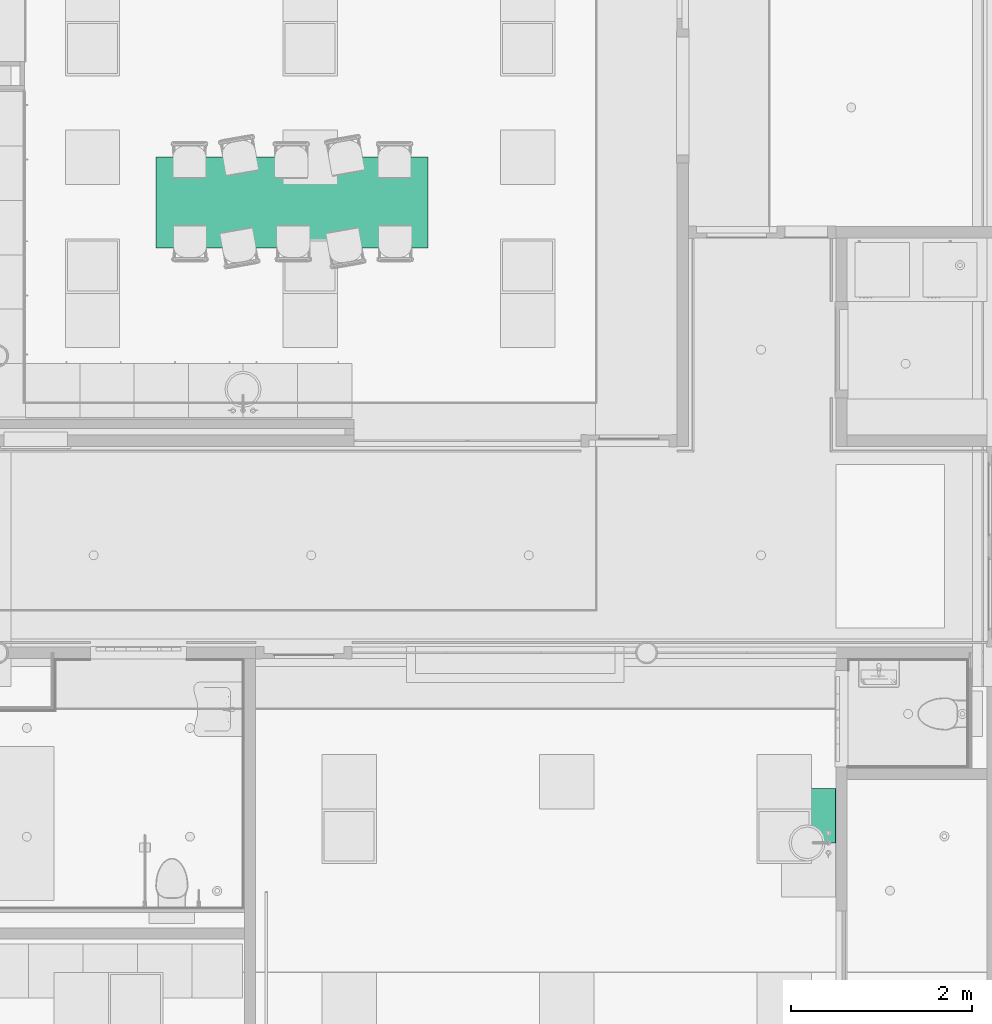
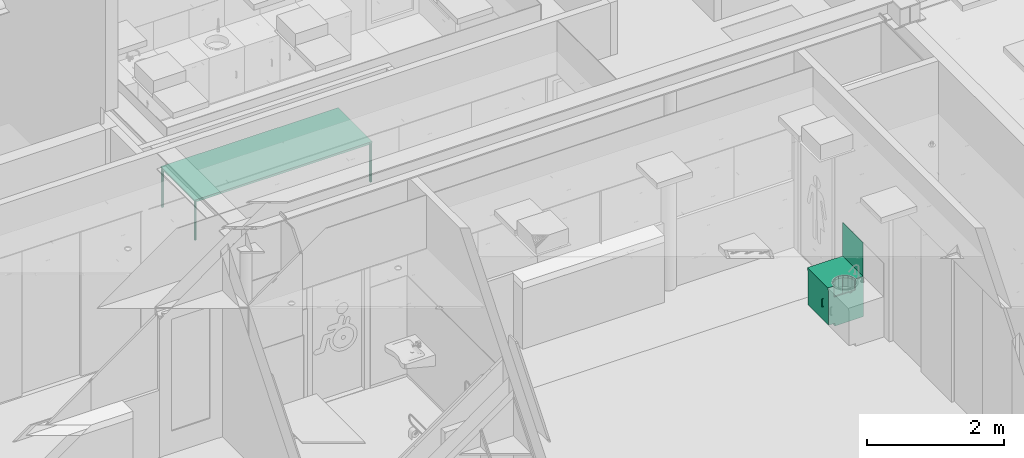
# One storey, part 302 of 347: 2 distribution elements.
"""IFC2X3 building model written with IfcOpenShell, lengths in millimetres."""

from ifc_helpers import new_model, entity, si_unit, converted_unit, derived_unit, money_unit, direction, frame, origin_with_axes, place, context, subcontext, project, spatial, faceted_brep, type_object, element, save


model = new_model("IFC2X3")

# Units and contexts
model_context = context("Model", 3, precision=0.01, world=origin_with_axes(), true_north=direction((0.0, 1.0)))
plan_context = context("Plan", 3, precision=0.01, world=origin_with_axes(), true_north=direction((0.0, 1.0)))
body_context = subcontext(model_context, "Body", "Model", "MODEL_VIEW")
ifc_project = project(units=[si_unit("LENGTHUNIT", "METRE", prefix="MILLI"), si_unit("AREAUNIT", "SQUARE_METRE"), si_unit("VOLUMEUNIT", "CUBIC_METRE"), converted_unit("PLANEANGLEUNIT", "DEGREE", entity("IfcPlaneAngleMeasure", 0.0174532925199), si_unit("PLANEANGLEUNIT", "RADIAN"), dimensions=[0, 0, 0, 0, 0, 0, 0]), money_unit("EUR"), converted_unit("TIMEUNIT", "Year", entity("IfcTimeMeasure", 31556926.0), si_unit("TIMEUNIT", "SECOND"), dimensions=[0, 0, 1, 0, 0, 0, 0]), si_unit("MASSUNIT", "GRAM", prefix="KILO"), si_unit("THERMODYNAMICTEMPERATUREUNIT", "DEGREE_CELSIUS"), si_unit("LUMINOUSINTENSITYUNIT", "LUMEN"), si_unit("ENERGYUNIT", "JOULE", prefix="MEGA"), derived_unit("THERMALCONDUCTANCEUNIT", [(si_unit("POWERUNIT", "WATT"), 1), (si_unit("LENGTHUNIT", "METRE"), -1), (si_unit("THERMODYNAMICTEMPERATUREUNIT", "KELVIN"), -1)]), derived_unit("SPECIFICHEATCAPACITYUNIT", [(si_unit("ENERGYUNIT", "JOULE"), 1), (si_unit("MASSUNIT", "GRAM", prefix="KILO"), -1), (si_unit("THERMODYNAMICTEMPERATUREUNIT", "KELVIN"), -1)]), derived_unit("MASSDENSITYUNIT", [(si_unit("MASSUNIT", "GRAM", prefix="KILO"), 1), (si_unit("VOLUMEUNIT", "CUBIC_METRE"), -1)])], contexts=[model_context, plan_context])

# Site, building, storey
site_placement = place(None, origin_with_axes())
site = spatial("IfcSite", under=ifc_project, at=site_placement, Name="Site", CompositionType="ELEMENT")
building_placement = place(site_placement, origin_with_axes())
building = spatial("IfcBuilding", under=site, at=building_placement, Name="Naam gebouw", CompositionType="ELEMENT")
storey_placement = place(building_placement, origin_with_axes())
storey = spatial("IfcBuildingStorey", under=building, at=storey_placement, Name="begane grond", CompositionType="ELEMENT", Elevation=0.0)

# Distribution elements
distribution_element_type_1 = type_object("IfcDistributionElementType", Name="Tafel rechthoekig 01 25")
distribution_element_1_placement = place(storey_placement, frame((29324.9441319, 17592.1373626, 0.0), z_axis=(0.0, 0.0, 1.0), x_axis=(-1.0, 0.0, 0.0)))
element("IfcDistributionElement", 1, at=distribution_element_1_placement, inside=storey, type_object=distribution_element_type_1, Name="65 Beveiliging_73 pantryblok", context=body_context, shape_type="Brep", body=[
    faceted_brep([(37.3205080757, 10.0, 0.0), (30.0, 2.67949192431, 0.0), (20.0, 0.0, 0.0), (10.0, 2.67949192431, 0.0), (2.67949192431, 10.0, 0.0), (0.0, 20.0, 0.0), (2.67949192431, 30.0, 0.0), (10.0, 37.3205080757, 0.0), (20.0, 40.0, 0.0), (30.0, 37.3205080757, 0.0), (37.3205080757, 30.0, 0.0), (40.0, 20.0, 0.0), (37.3205080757, 10.0, 700.0), (30.0, 2.67949192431, 700.0), (20.0, 0.0, 700.0), (10.0, 2.67949192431, 700.0), (2.67949192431, 10.0, 700.0), (0.0, 20.0, 700.0), (2.67949192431, 30.0, 700.0), (10.0, 37.3205080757, 700.0), (20.0, 40.0, 700.0), (30.0, 37.3205080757, 700.0), (37.3205080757, 30.0, 700.0), (40.0, 20.0, 700.0)], [[[0, 1, 2, 3, 4, 5, 6, 7, 8, 9, 10, 11]], [[1, 0, 12, 13]], [[2, 1, 13, 14]], [[3, 2, 14, 15]], [[4, 3, 15, 16]], [[5, 4, 16, 17]], [[6, 5, 17, 18]], [[7, 6, 18, 19]], [[8, 7, 19, 20]], [[9, 8, 20, 21]], [[10, 9, 21, 22]], [[11, 10, 22, 23]], [[0, 11, 23, 12]], [[12, 23, 22, 21, 20, 19, 18, 17, 16, 15, 14, 13]]]),
    faceted_brep([(2997.32050808, 10.0, 0.0), (2990.0, 2.67949192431, 0.0), (2980.0, 0.0, 0.0), (2970.0, 2.67949192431, 0.0), (2962.67949192, 10.0, 0.0), (2960.0, 20.0, 0.0), (2962.67949192, 30.0, 0.0), (2970.0, 37.3205080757, 0.0), (2980.0, 40.0, 0.0), (2990.0, 37.3205080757, 0.0), (2997.32050808, 30.0, 0.0), (3000.0, 20.0, 0.0), (2997.32050808, 10.0, 700.0), (2990.0, 2.67949192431, 700.0), (2980.0, 0.0, 700.0), (2970.0, 2.67949192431, 700.0), (2962.67949192, 10.0, 700.0), (2960.0, 20.0, 700.0), (2962.67949192, 30.0, 700.0), (2970.0, 37.3205080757, 700.0), (2980.0, 40.0, 700.0), (2990.0, 37.3205080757, 700.0), (2997.32050808, 30.0, 700.0), (3000.0, 20.0, 700.0)], [[[0, 1, 2, 3, 4, 5, 6, 7, 8, 9, 10, 11]], [[1, 0, 12, 13]], [[2, 1, 13, 14]], [[3, 2, 14, 15]], [[4, 3, 15, 16]], [[5, 4, 16, 17]], [[6, 5, 17, 18]], [[7, 6, 18, 19]], [[8, 7, 19, 20]], [[9, 8, 20, 21]], [[10, 9, 21, 22]], [[11, 10, 22, 23]], [[0, 11, 23, 12]], [[12, 23, 22, 21, 20, 19, 18, 17, 16, 15, 14, 13]]]),
    faceted_brep([(37.3205080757, 970.0, 0.0), (30.0, 962.679491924, 0.0), (20.0, 960.0, 0.0), (10.0, 962.679491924, 0.0), (2.67949192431, 970.0, 0.0), (0.0, 980.0, 0.0), (2.67949192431, 990.0, 0.0), (10.0, 997.320508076, 0.0), (20.0, 1000.0, 0.0), (30.0, 997.320508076, 0.0), (37.3205080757, 990.0, 0.0), (40.0, 980.0, 0.0), (37.3205080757, 970.0, 700.0), (30.0, 962.679491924, 700.0), (20.0, 960.0, 700.0), (10.0, 962.679491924, 700.0), (2.67949192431, 970.0, 700.0), (0.0, 980.0, 700.0), (2.67949192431, 990.0, 700.0), (10.0, 997.320508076, 700.0), (20.0, 1000.0, 700.0), (30.0, 997.320508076, 700.0), (37.3205080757, 990.0, 700.0), (40.0, 980.0, 700.0)], [[[0, 1, 2, 3, 4, 5, 6, 7, 8, 9, 10, 11]], [[1, 0, 12, 13]], [[2, 1, 13, 14]], [[3, 2, 14, 15]], [[4, 3, 15, 16]], [[5, 4, 16, 17]], [[6, 5, 17, 18]], [[7, 6, 18, 19]], [[8, 7, 19, 20]], [[9, 8, 20, 21]], [[10, 9, 21, 22]], [[11, 10, 22, 23]], [[0, 11, 23, 12]], [[12, 23, 22, 21, 20, 19, 18, 17, 16, 15, 14, 13]]]),
    faceted_brep([(2997.32050808, 970.0, 0.0), (2990.0, 962.679491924, 0.0), (2980.0, 960.0, 0.0), (2970.0, 962.679491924, 0.0), (2962.67949192, 970.0, 0.0), (2960.0, 980.0, 0.0), (2962.67949192, 990.0, 0.0), (2970.0, 997.320508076, 0.0), (2980.0, 1000.0, 0.0), (2990.0, 997.320508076, 0.0), (2997.32050808, 990.0, 0.0), (3000.0, 980.0, 0.0), (2997.32050808, 970.0, 700.0), (2990.0, 962.679491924, 700.0), (2980.0, 960.0, 700.0), (2970.0, 962.679491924, 700.0), (2962.67949192, 970.0, 700.0), (2960.0, 980.0, 700.0), (2962.67949192, 990.0, 700.0), (2970.0, 997.320508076, 700.0), (2980.0, 1000.0, 700.0), (2990.0, 997.320508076, 700.0), (2997.32050808, 990.0, 700.0), (3000.0, 980.0, 700.0)], [[[0, 1, 2, 3, 4, 5, 6, 7, 8, 9, 10, 11]], [[1, 0, 12, 13]], [[2, 1, 13, 14]], [[3, 2, 14, 15]], [[4, 3, 15, 16]], [[5, 4, 16, 17]], [[6, 5, 17, 18]], [[7, 6, 18, 19]], [[8, 7, 19, 20]], [[9, 8, 20, 21]], [[10, 9, 21, 22]], [[11, 10, 22, 23]], [[0, 11, 23, 12]], [[12, 23, 22, 21, 20, 19, 18, 17, 16, 15, 14, 13]]]),
    faceted_brep([(3000.0, 0.0, 700.0), (0.0, 0.0, 700.0), (0.0, 1000.0, 700.0), (3000.0, 1000.0, 700.0), (3000.0, 0.0, 720.0), (0.0, 0.0, 720.0), (0.0, 1000.0, 720.0), (3000.0, 1000.0, 720.0)], [[[0, 1, 2, 3]], [[1, 0, 4, 5]], [[2, 1, 5, 6]], [[3, 2, 6, 7]], [[0, 3, 7, 4]], [[5, 4, 7, 6]]]),
    faceted_brep([(2960.0, 10.0, 675.0), (40.0, 10.0, 675.0), (40.0, 30.0, 675.0), (2960.0, 30.0, 675.0), (2960.0, 10.0, 700.0), (40.0, 10.0, 700.0), (40.0, 30.0, 700.0), (2960.0, 30.0, 700.0)], [[[0, 1, 2, 3]], [[1, 0, 4, 5]], [[2, 1, 5, 6]], [[3, 2, 6, 7]], [[0, 3, 7, 4]], [[5, 4, 7, 6]]]),
    faceted_brep([(30.0, 40.0, 675.0), (10.0, 40.0, 675.0), (10.0, 960.0, 675.0), (30.0, 960.0, 675.0), (30.0, 40.0, 700.0), (10.0, 40.0, 700.0), (10.0, 960.0, 700.0), (30.0, 960.0, 700.0)], [[[0, 1, 2, 3]], [[1, 0, 4, 5]], [[2, 1, 5, 6]], [[3, 2, 6, 7]], [[0, 3, 7, 4]], [[5, 4, 7, 6]]]),
    faceted_brep([(40.0, 990.0, 675.0), (2960.0, 990.0, 675.0), (2960.0, 970.0, 675.0), (40.0, 970.0, 675.0), (40.0, 990.0, 700.0), (2960.0, 990.0, 700.0), (2960.0, 970.0, 700.0), (40.0, 970.0, 700.0)], [[[0, 1, 2, 3]], [[1, 0, 4, 5]], [[2, 1, 5, 6]], [[3, 2, 6, 7]], [[0, 3, 7, 4]], [[5, 4, 7, 6]]]),
    faceted_brep([(2970.0, 960.0, 675.0), (2990.0, 960.0, 675.0), (2990.0, 40.0, 675.0), (2970.0, 40.0, 675.0), (2970.0, 960.0, 700.0), (2990.0, 960.0, 700.0), (2990.0, 40.0, 700.0), (2970.0, 40.0, 700.0)], [[[0, 1, 2, 3]], [[1, 0, 4, 5]], [[2, 1, 5, 6]], [[3, 2, 6, 7]], [[0, 3, 7, 4]], [[5, 4, 7, 6]]]),
])
distribution_element_type_2 = type_object("IfcDistributionElementType", Name="Onderkast recht 25")
distribution_element_2_placement = place(storey_placement, frame((33825.0, 10027.5, 0.0), z_axis=(0.0, 0.0, 1.0), x_axis=(0.0, -1.0, 0.0)))
element("IfcDistributionElement", 2, at=distribution_element_2_placement, inside=storey, type_object=distribution_element_type_2, Name="65 Beveiliging_82 pantryblok", context=body_context, shape_type="Brep", body=[
    faceted_brep([(-127.279220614, -189.454472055, 720.0), (-68.8830178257, -150.435376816, 720.0), (0.0, -136.733692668, 720.0), (0.0, 0.0, 720.0), (-600.0, 0.0, 720.0), (-600.0, -600.0, 720.0), (0.0, -600.0, 720.0), (0.0, -496.733692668, 720.0), (-68.8830178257, -483.03200852, 720.0), (-127.279220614, -444.012913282, 720.0), (-166.298315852, -385.616710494, 720.0), (-180.0, -316.733692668, 720.0), (-166.298315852, -247.850674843, 720.0), (-127.279220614, -189.454472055, 680.0), (-68.8830178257, -150.435376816, 680.0), (0.0, -136.733692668, 680.0), (0.0, 0.0, 680.0), (-600.0, 0.0, 680.0), (-600.0, -600.0, 680.0), (0.0, -600.0, 680.0), (0.0, -496.733692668, 680.0), (-68.8830178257, -483.03200852, 680.0), (-127.279220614, -444.012913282, 680.0), (-166.298315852, -385.616710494, 680.0), (-180.0, -316.733692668, 680.0), (-166.298315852, -247.850674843, 680.0)], [[[0, 1, 2, 3, 4, 5, 6, 7, 8, 9, 10, 11, 12]], [[1, 0, 13, 14]], [[2, 1, 14, 15]], [[2, 15, 16, 3]], [[16, 17, 4, 3]], [[17, 18, 5, 4]], [[18, 19, 6, 5]], [[20, 7, 6, 19]], [[8, 7, 20, 21]], [[9, 8, 21, 22]], [[10, 9, 22, 23]], [[11, 10, 23, 24]], [[12, 11, 24, 25]], [[0, 12, 25, 13]], [[21, 20, 19, 18, 17, 16, 15, 14, 13, 25, 24, 23, 22]]]),
    faceted_brep([(-18.0, -512.0, 662.0), (-18.0, -572.0, 662.0), (-582.0, -572.0, 662.0), (-582.0, -512.0, 662.0), (-18.0, -572.0, 680.0), (-18.0, -512.0, 680.0), (-582.0, -572.0, 680.0), (-582.0, -512.0, 680.0)], [[[0, 1, 2, 3]], [[4, 1, 0, 5]], [[1, 4, 6, 2]], [[3, 2, 6, 7]], [[5, 0, 3, 7]], [[4, 5, 7, 6]]]),
    faceted_brep([(-18.0, -9.0, 68.0), (-582.0, -9.0, 68.0), (-582.0, -9.0, 662.0), (-18.0, -9.0, 662.0), (-582.0, -18.0, 68.0), (-18.0, -18.0, 68.0), (-582.0, -18.0, 662.0), (-18.0, -18.0, 662.0)], [[[0, 1, 2, 3]], [[4, 1, 0, 5]], [[1, 4, 6, 2]], [[3, 2, 6, 7]], [[5, 0, 3, 7]], [[4, 5, 7, 6]]]),
    faceted_brep([(-582.0, -60.0, 662.0), (-582.0, 0.0, 662.0), (-18.0, 0.0, 662.0), (-18.0, -60.0, 662.0), (-582.0, 0.0, 680.0), (-582.0, -60.0, 680.0), (-18.0, 0.0, 680.0), (-18.0, -60.0, 680.0)], [[[0, 1, 2, 3]], [[4, 1, 0, 5]], [[1, 4, 6, 2]], [[3, 2, 6, 7]], [[5, 0, 3, 7]], [[4, 5, 7, 6]]]),
    faceted_brep([(-18.0, -140.314115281, 520.0), (-18.0, -140.314115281, 680.0), (-18.0, 0.0, 680.0), (-18.0, 0.0, 50.0), (-18.0, -572.0, 50.0), (-18.0, -572.0, 680.0), (-18.0, -493.153270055, 680.0), (-18.0, -493.153270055, 520.0), (-18.0, -227.476787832, 520.0), (-18.0, -227.476787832, 500.0), (-18.0, -205.990597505, 500.0), (-18.0, -205.990597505, 520.0), (0.0, -136.733692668, 680.0), (0.0, -136.733692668, 520.0), (0.0, 0.0, 680.0), (0.0, 0.0, 50.0), (0.0, -572.0, 50.0), (0.0, -572.0, 680.0), (0.0, -496.733692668, 680.0), (0.0, -496.733692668, 520.0), (-14.8492424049, -231.582935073, 520.0), (0.0, -237.733692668, 520.0), (-5.43519994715, -237.01813502, 520.0), (-10.5, -234.920226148, 520.0), (-14.8492424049, -231.582935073, 500.0), (0.0, -237.733692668, 500.0), (0.0, -195.733692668, 500.0), (-5.43519994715, -196.449250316, 500.0), (-10.5, -198.547159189, 500.0), (-14.8492424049, -201.884450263, 500.0), (-10.5, -234.920226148, 500.0), (-5.43519994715, -237.01813502, 500.0), (-14.8492424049, -201.884450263, 520.0), (0.0, -195.733692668, 520.0), (-10.5, -198.547159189, 520.0), (-5.43519994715, -196.449250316, 520.0)], [[[0, 1, 2, 3, 4, 5, 6, 7, 8, 9, 10, 11]], [[12, 1, 0, 13]], [[1, 12, 14, 2]], [[15, 3, 2, 14]], [[3, 15, 16, 4]], [[4, 16, 17, 5]], [[18, 6, 5, 17]], [[7, 6, 18, 19]], [[20, 8, 7, 19, 21, 22, 23]], [[8, 20, 24, 9]], [[25, 26, 27, 28, 29, 10, 9, 24, 30, 31]], [[32, 11, 10, 29]], [[33, 13, 0, 11, 32, 34, 35]], [[13, 33, 26, 25, 21, 19, 18, 17, 16, 15, 14, 12]], [[22, 21, 25, 31]], [[23, 22, 31, 30]], [[20, 23, 30, 24]], [[33, 35, 27, 26]], [[35, 34, 28, 27]], [[34, 32, 29, 28]]]),
    faceted_brep([(-600.0, 0.0, 50.0), (-600.0, -572.0, 50.0), (-600.0, -572.0, 680.0), (-600.0, 0.0, 680.0), (-582.0, -572.0, 50.0), (-582.0, 0.0, 50.0), (-582.0, -572.0, 680.0), (-582.0, 0.0, 680.0)], [[[0, 1, 2, 3]], [[4, 1, 0, 5]], [[1, 4, 6, 2]], [[3, 2, 6, 7]], [[5, 0, 3, 7]], [[4, 5, 7, 6]]]),
    faceted_brep([(-600.0, 0.0, 720.0), (0.0, 0.0, 720.0), (0.0, -6.0, 720.0), (-600.0, -6.0, 720.0), (-600.0, 0.0, 1320.0), (0.0, 0.0, 1320.0), (0.0, -6.0, 1320.0), (-600.0, -6.0, 1320.0)], [[[0, 1, 2, 3]], [[4, 5, 1, 0]], [[1, 5, 6, 2]], [[3, 2, 6, 7]], [[0, 3, 7, 4]], [[7, 6, 5, 4]]]),
    faceted_brep([(-146.0, -590.0, 291.0), (-156.0, -590.0, 291.0), (-156.0, -590.0, 301.0), (-146.0, -590.0, 301.0), (-146.0, -600.0, 291.0), (-156.0, -600.0, 291.0), (-156.0, -603.472963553, 291.30384494), (-156.0, -606.840402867, 292.206147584), (-156.0, -610.0, 293.679491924), (-156.0, -612.855752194, 295.679111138), (-156.0, -615.320888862, 298.144247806), (-156.0, -617.320508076, 301.0), (-156.0, -618.793852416, 304.159597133), (-156.0, -619.69615506, 307.527036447), (-156.0, -620.0, 311.0), (-156.0, -620.0, 421.0), (-156.0, -619.69615506, 424.472963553), (-156.0, -618.793852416, 427.840402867), (-156.0, -617.320508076, 431.0), (-156.0, -615.320888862, 433.855752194), (-156.0, -612.855752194, 436.320888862), (-156.0, -610.0, 438.320508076), (-156.0, -606.840402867, 439.793852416), (-156.0, -603.472963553, 440.69615506), (-156.0, -600.0, 441.0), (-156.0, -590.0, 441.0), (-156.0, -590.0, 431.0), (-156.0, -600.0, 431.0), (-156.0, -601.736481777, 430.84807753), (-156.0, -603.420201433, 430.396926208), (-156.0, -605.0, 429.660254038), (-156.0, -606.427876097, 428.660444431), (-156.0, -607.660444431, 427.427876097), (-156.0, -608.660254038, 426.0), (-156.0, -609.396926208, 424.420201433), (-156.0, -609.84807753, 422.736481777), (-156.0, -610.0, 421.0), (-156.0, -610.0, 311.0), (-156.0, -609.84807753, 309.263518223), (-156.0, -609.396926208, 307.579798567), (-156.0, -608.660254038, 306.0), (-156.0, -607.660444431, 304.572123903), (-156.0, -606.427876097, 303.339555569), (-156.0, -605.0, 302.339745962), (-156.0, -603.420201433, 301.603073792), (-156.0, -601.736481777, 301.15192247), (-156.0, -600.0, 301.0), (-146.0, -600.0, 301.0), (-146.0, -601.736481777, 301.15192247), (-146.0, -603.420201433, 301.603073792), (-146.0, -605.0, 302.339745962), (-146.0, -606.427876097, 303.339555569), (-146.0, -607.660444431, 304.572123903), (-146.0, -608.660254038, 306.0), (-146.0, -609.396926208, 307.579798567), (-146.0, -609.84807753, 309.263518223), (-146.0, -610.0, 311.0), (-146.0, -610.0, 421.0), (-146.0, -609.84807753, 422.736481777), (-146.0, -609.396926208, 424.420201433), (-146.0, -608.660254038, 426.0), (-146.0, -607.660444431, 427.427876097), (-146.0, -606.427876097, 428.660444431), (-146.0, -605.0, 429.660254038), (-146.0, -603.420201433, 430.396926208), (-146.0, -601.736481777, 430.84807753), (-146.0, -600.0, 431.0), (-146.0, -590.0, 431.0), (-146.0, -590.0, 441.0), (-146.0, -600.0, 441.0), (-146.0, -603.472963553, 440.69615506), (-146.0, -606.840402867, 439.793852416), (-146.0, -610.0, 438.320508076), (-146.0, -612.855752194, 436.320888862), (-146.0, -615.320888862, 433.855752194), (-146.0, -617.320508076, 431.0), (-146.0, -618.793852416, 427.840402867), (-146.0, -619.69615506, 424.472963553), (-146.0, -620.0, 421.0), (-146.0, -620.0, 311.0), (-146.0, -619.69615506, 307.527036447), (-146.0, -618.793852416, 304.159597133), (-146.0, -617.320508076, 301.0), (-146.0, -615.320888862, 298.144247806), (-146.0, -612.855752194, 295.679111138), (-146.0, -610.0, 293.679491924), (-146.0, -606.840402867, 292.206147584), (-146.0, -603.472963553, 291.30384494)], [[[0, 1, 2, 3]], [[4, 5, 1, 0]], [[1, 5, 6, 7, 8, 9, 10, 11, 12, 13, 14, 15, 16, 17, 18, 19, 20, 21, 22, 23, 24, 25, 26, 27, 28, 29, 30, 31, 32, 33, 34, 35, 36, 37, 38, 39, 40, 41, 42, 43, 44, 45, 46, 2]], [[3, 2, 46, 47]], [[0, 3, 47, 48, 49, 50, 51, 52, 53, 54, 55, 56, 57, 58, 59, 60, 61, 62, 63, 64, 65, 66, 67, 68, 69, 70, 71, 72, 73, 74, 75, 76, 77, 78, 79, 80, 81, 82, 83, 84, 85, 86, 87, 4]], [[87, 6, 5, 4]], [[86, 7, 6, 87]], [[85, 8, 7, 86]], [[84, 9, 8, 85]], [[83, 10, 9, 84]], [[82, 11, 10, 83]], [[81, 12, 11, 82]], [[80, 13, 12, 81]], [[79, 14, 13, 80]], [[78, 15, 14, 79]], [[77, 16, 15, 78]], [[76, 17, 16, 77]], [[75, 18, 17, 76]], [[74, 19, 18, 75]], [[73, 20, 19, 74]], [[72, 21, 20, 73]], [[71, 22, 21, 72]], [[70, 23, 22, 71]], [[69, 24, 23, 70]], [[68, 25, 24, 69]], [[67, 26, 25, 68]], [[66, 27, 26, 67]], [[65, 28, 27, 66]], [[64, 29, 28, 65]], [[63, 30, 29, 64]], [[62, 31, 30, 63]], [[61, 32, 31, 62]], [[60, 33, 32, 61]], [[59, 34, 33, 60]], [[58, 35, 34, 59]], [[57, 36, 35, 58]], [[56, 37, 36, 57]], [[55, 38, 37, 56]], [[54, 39, 38, 55]], [[53, 40, 39, 54]], [[52, 41, 40, 53]], [[51, 42, 41, 52]], [[50, 43, 42, 51]], [[49, 44, 43, 50]], [[48, 45, 44, 49]], [[47, 46, 45, 48]]]),
    faceted_brep([(-0.999999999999, -572.0, 51.0), (-0.999999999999, -590.0, 51.0), (-599.0, -590.0, 51.0), (-599.0, -572.0, 51.0), (-0.999999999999, -572.0, 679.0), (-0.999999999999, -590.0, 679.0), (-599.0, -590.0, 679.0), (-599.0, -572.0, 679.0)], [[[0, 1, 2, 3]], [[4, 5, 1, 0]], [[1, 5, 6, 2]], [[3, 2, 6, 7]], [[0, 3, 7, 4]], [[7, 6, 5, 4]]]),
    faceted_brep([(-18.0, -572.0, 50.0), (-18.0, -572.0, 68.0), (-582.0, -572.0, 68.0), (-582.0, -572.0, 50.0), (-18.0, 0.0, 50.0), (-18.0, 0.0, 68.0), (-582.0, 0.0, 68.0), (-582.0, 0.0, 50.0)], [[[0, 1, 2, 3]], [[4, 5, 1, 0]], [[1, 5, 6, 2]], [[3, 2, 6, 7]], [[0, 3, 7, 4]], [[7, 6, 5, 4]]]),
    faceted_brep([(0.0, -482.0, 0.0), (0.0, -482.0, 50.0), (-600.0, -482.0, 50.0), (-600.0, -482.0, 0.0), (0.0, 0.0, 0.0), (0.0, 0.0, 50.0), (-600.0, 0.0, 50.0), (-600.0, 0.0, 0.0)], [[[0, 1, 2, 3]], [[4, 5, 1, 0]], [[1, 5, 6, 2]], [[3, 2, 6, 7]], [[0, 3, 7, 4]], [[7, 6, 5, 4]]]),
])

save(model, "model.ifc")
